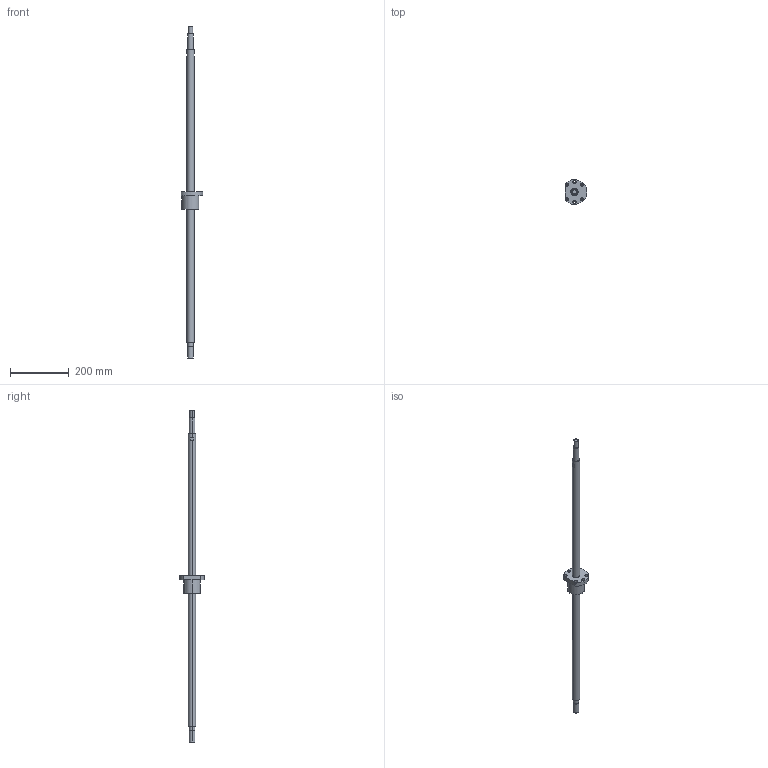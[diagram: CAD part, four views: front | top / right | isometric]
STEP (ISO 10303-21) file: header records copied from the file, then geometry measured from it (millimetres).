
FILE_DESCRIPTION((''),'2;1');
FILE_NAME('R25-10K4-FSC-970-1133','2008-04-03T',('wcwu'),(''),'PRO/ENGINEER BY PARAMETRIC TECHNOLOGY CORPORATION, 2005070','PRO/ENGINEER BY PARAMETRIC TECHNOLOGY CORPORATION, 2005070','');
FILE_SCHEMA(('CONFIG_CONTROL_DESIGN'));
Length unit declared in the file: millimetre
Products named in the file (1): R25-10K4-FSC-970-1133
Bounding box: 74.5 x 84.99 x 1133 mm (x, y, z)
Volume: 691735.9 mm3; surface area: 106522.3 mm2
Topology: 1 solids, 1 shells, 64 faces, 144 edges, 96 vertices
Faces by surface type: cylinder 41, plane 23
Entity records: 1900 total; most frequent: DIRECTION 362, CARTESIAN_POINT 304, ORIENTED_EDGE 288, AXIS2_PLACEMENT_3D 154, EDGE_CURVE 144, VERTEX_POINT 96, EDGE_LOOP 90, CIRCLE 90
